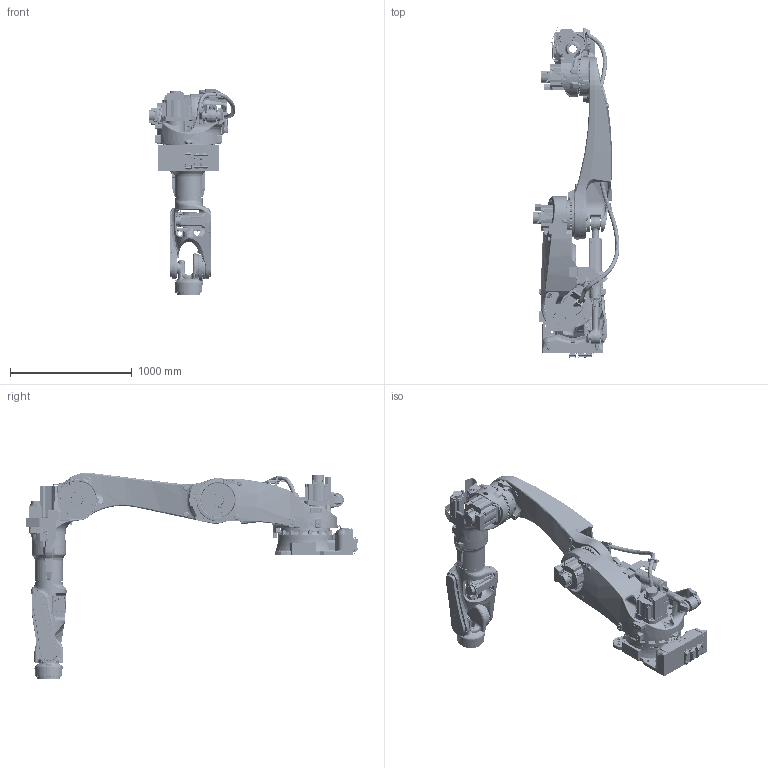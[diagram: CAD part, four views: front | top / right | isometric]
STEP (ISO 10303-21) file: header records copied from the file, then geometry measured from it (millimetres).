
FILE_DESCRIPTION(('CATIA V5 STEP Exchange'),'2;1');
FILE_NAME('D:\モデリング\☆☆☆STEP\BT\BT200L-B001_200826\RARAS_200826\軽量化\Part\BT200L-B001.stp','2020-08-28T04:10:28+00:00',('none'),('none'),'CATIA Version 5-6 Release 2016 SP6 HF14','CATIA V5 STEP AP203','none');
FILE_SCHEMA(('CONFIG_CONTROL_DESIGN'));
Products named in the file (1): BT200L-B001
Assembly tree (10 placements, depth 2):
  BT200L-B001
    #57
    #44650
    #144998
    #204740
    #268239
    #361239
    #401407
    #405070
    #411864
    #423300
Bounding box: 715.7 x 2731.32 x 1699.58 mm (x, y, z)
Volume: 227782081.6 mm3; surface area: 12944869 mm2
Topology: 30 solids, 30 shells, 9544 faces, 24366 edges, 15187 vertices
Faces by surface type: cylinder 3308, plane 3267, bspline 1557, cone 484, torus 453, extrusion 306, sphere 102, revolution 67
Entity records: 426061 total; most frequent: CARTESIAN_POINT 224535, ORIENTED_EDGE 47858, DIRECTION 28810, EDGE_CURVE 23929, VERTEX_POINT 15177, AXIS2_PLACEMENT_3D 13180, EDGE_LOOP 10488, VECTOR 9856
